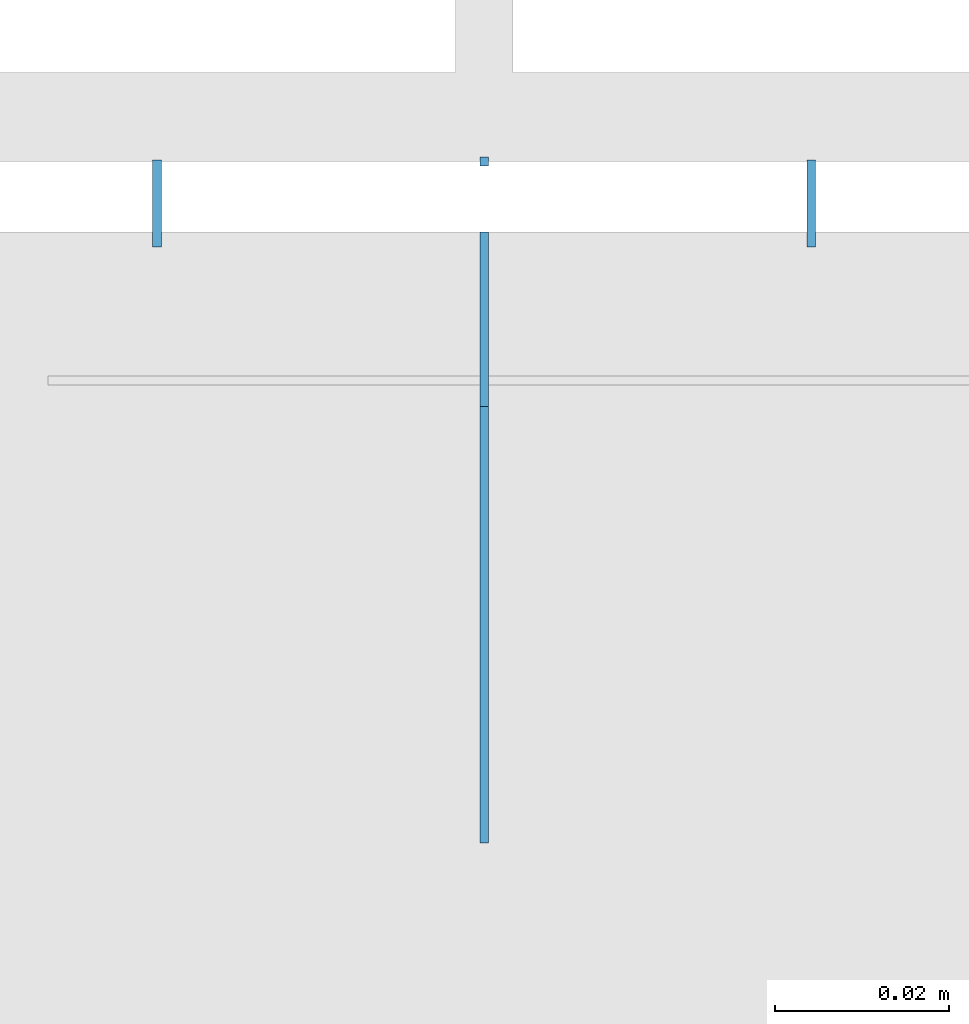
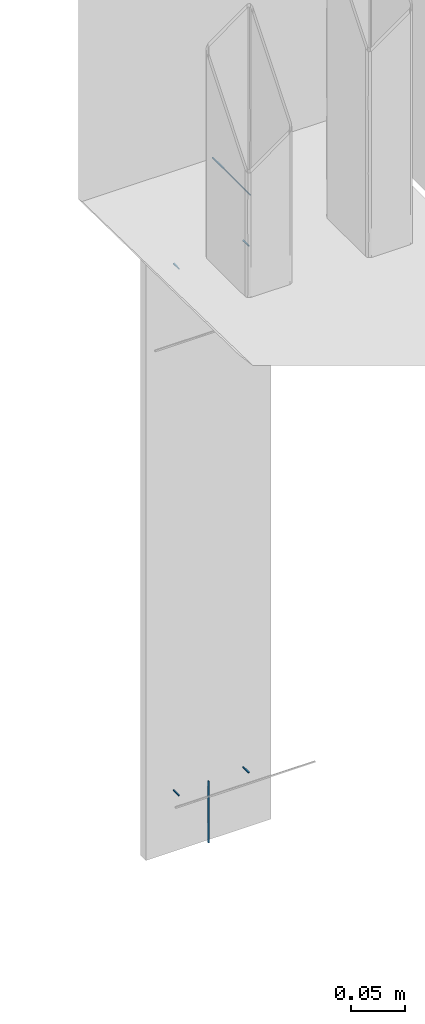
# One storey, part 99 of 186: 7 beams.
"""IFC4X3_ADD2 building model written with IfcOpenShell, lengths in millimetres."""

import ifcopenshell
import ifcopenshell.guid

model = None  # the IFC model being written
_history = None  # IfcOwnerHistory: only IFC2X3 demands one
_inside = {}  # id of a spatial element -> (the spatial element, [elements in it])
_under = {}  # id of a project, library or spatial element -> (it, [spatial elements below it])
_declared = {}  # id of a project -> (the project, [libraries it declares])
_typed = {}  # id of a type object -> (the type object, [elements of that type])
_made_of = {}  # id of a material, layer set ... -> (it, [elements and type objects made of it])


def new_model(schema):
    """Start an empty IFC model of exactly this schema.

    Asked for "IFC4X3", IfcOpenShell would pick the latest addendum, in which some entities
    have other attributes; the version numbers below select the first issue.
    IFC2X3 requires an IfcOwnerHistory on every rooted entity: one is made here for all.
    """
    global model, _history
    if schema == "IFC4X3":
        model = ifcopenshell.file(schema_version=(4, 3, 0, 0))
    else:
        model = ifcopenshell.file(schema=schema)
    _inside.clear()
    _under.clear()
    _declared.clear()
    _typed.clear()
    _made_of.clear()
    _history = None
    if model.schema == "IFC2X3":
        org = make("IfcOrganization", Name="unknown")
        user = make(
            "IfcPersonAndOrganization",
            ThePerson=make("IfcPerson", FamilyName="unknown"),
            TheOrganization=org,
        )
        app = make(
            "IfcApplication",
            ApplicationDeveloper=org,
            Version="unknown",
            ApplicationFullName="unknown",
            ApplicationIdentifier="unknown",
        )
        _history = make(
            "IfcOwnerHistory",
            OwningUser=user,
            OwningApplication=app,
            ChangeAction="ADDED",
            CreationDate=0,
        )
    return model


def make(cls, **values):
    """One entity of the class cls with the attributes given. An attribute that is None is left unset."""
    return model.create_entity(
        cls, **{name: value for name, value in values.items() if value is not None}
    )


def rooted(cls, **values):
    """An entity with a GlobalId (a new one), such as an element, a storey or a relation."""
    return make(cls, GlobalId=ifcopenshell.guid.new(), OwnerHistory=_history, **values)


def si_unit(unit_type, name, prefix=None):
    """IfcSIUnit, for example si_unit("LENGTHUNIT", "METRE", prefix="MILLI")."""
    return make("IfcSIUnit", UnitType=unit_type, Prefix=prefix, Name=name)


def assignment(units):
    """IfcUnitAssignment: the units of a project."""
    return None if units is None else make("IfcUnitAssignment", Units=units)


def point(xyz):
    """IfcCartesianPoint."""
    return None if xyz is None else make("IfcCartesianPoint", Coordinates=xyz)


def direction(xyz):
    """IfcDirection."""
    return None if xyz is None else make("IfcDirection", DirectionRatios=xyz)


def frame(location, z_axis=None, x_axis=None):
    """IfcAxis2Placement3D, a coordinate frame: its origin and axes. An axis left out is left unset."""
    return make(
        "IfcAxis2Placement3D",
        Location=point(location),
        Axis=direction(z_axis),
        RefDirection=direction(x_axis),
    )


def frame_2d(location, x_axis=None):
    """IfcAxis2Placement2D, a coordinate frame in the plane: its origin and x axis."""
    return make(
        "IfcAxis2Placement2D", Location=point(location), RefDirection=direction(x_axis)
    )


def origin_with_axes():
    """The frame at (0, 0, 0) with the z axis (0, 0, 1) and the x axis (1, 0, 0) written out."""
    return frame((0.0, 0.0, 0.0), z_axis=(0.0, 0.0, 1.0), x_axis=(1.0, 0.0, 0.0))


def place(relative_to, where):
    """IfcLocalPlacement: puts the frame where relative to a parent placement (None: the world)."""
    return make(
        "IfcLocalPlacement", PlacementRelTo=relative_to, RelativePlacement=where
    )


def context(
    kind, dimensions, precision=None, world=None, true_north=None, identifier=None
):
    """IfcGeometricRepresentationContext, for example the 3D "Model" context."""
    return make(
        "IfcGeometricRepresentationContext",
        ContextIdentifier=identifier,
        ContextType=kind,
        CoordinateSpaceDimension=dimensions,
        Precision=precision,
        WorldCoordinateSystem=world,
        TrueNorth=true_north,
    )


def subcontext(parent, identifier, kind, view, scale=None):
    """IfcGeometricRepresentationSubContext, for example "Body" below "Model"."""
    return make(
        "IfcGeometricRepresentationSubContext",
        ContextIdentifier=identifier,
        ContextType=kind,
        ParentContext=parent,
        TargetScale=scale,
        TargetView=view,
    )


def project(units=None, contexts=None):
    """IfcProject with its units and contexts."""
    return rooted(
        "IfcProject",
        Name="project",
        RepresentationContexts=contexts,
        UnitsInContext=assignment(units),
    )


def spatial(cls, under=None, at=None, **own):
    """A site, building, storey or space (cls), placed at a placement, below another one or the project."""
    s = rooted(cls, ObjectPlacement=at, **own)
    if under is not None:
        _under.setdefault(under.id(), (under, []))[1].append(s)
    return s


def profile(cls, at=None, kind="AREA", **sizes):
    """A parametric profile (cls). Its sizes go by their IFC names, for example OverallWidth=200.0."""
    return make(cls, ProfileType=kind, Position=at, **sizes)


def rectangle(**sizes):
    """IfcRectangleProfileDef."""
    return profile("IfcRectangleProfileDef", **sizes)


def extrude(swept, where, along, depth):
    """IfcExtrudedAreaSolid: the profile swept, set in the frame where, extruded along a direction by depth."""
    return make(
        "IfcExtrudedAreaSolid",
        SweptArea=swept,
        Position=where,
        ExtrudedDirection=direction(along),
        Depth=depth,
    )


def shape(context_of_items, identifier, shape_type, items):
    """IfcShapeRepresentation: the items that make up one representation, for example the "Body"."""
    return make(
        "IfcShapeRepresentation",
        ContextOfItems=context_of_items,
        RepresentationIdentifier=identifier,
        RepresentationType=shape_type,
        Items=items,
    )


def material(Name=None, Category=None):
    """IfcMaterial."""
    return make("IfcMaterial", Name=Name, Category=Category)


def made_of(thing, what):
    """Note that an element or type object is made of a material, layer set ...; save() writes the relation."""
    if what is not None:
        _made_of.setdefault(what.id(), (what, []))[1].append(thing)
    return thing


def element(
    cls,
    number,
    at=None,
    inside=None,
    cuts=None,
    type_object=None,
    material=None,
    context=None,
    identifier="Body",
    shape_type=None,
    held_by="IfcProductDefinitionShape",
    body=None,
    shapes=None,
    **own,
):
    """One element of the class cls, such as IfcWall. Its Tag is "e" and its number.

    at: its placement. inside: the storey or other place that contains it. cuts: it is an
    opening in that element (IfcRelVoidsElement). A single representation is given by context,
    identifier, shape_type and body (its items); several are given by shapes. held_by: the class
    of the entity that holds the representations. save() writes the other relations.
    """
    e = rooted(cls, Tag="e%d" % number, ObjectPlacement=at, **own)
    if body is not None:
        shapes = [shape(context, identifier, shape_type, body)]
    if shapes is not None:
        e.Representation = make(held_by, Representations=shapes)
    if inside is not None:
        _inside.setdefault(inside.id(), (inside, []))[1].append(e)
    if cuts is not None:
        rooted(
            "IfcRelVoidsElement", RelatingBuildingElement=cuts, RelatedOpeningElement=e
        )
    if type_object is not None:
        _typed.setdefault(type_object.id(), (type_object, []))[1].append(e)
    return made_of(e, material)


def aggregate(whole, parts):
    """IfcRelAggregates: a whole, such as a stair, and the parts it consists of."""
    return rooted("IfcRelAggregates", RelatingObject=whole, RelatedObjects=parts)


def save(model, path):
    """Write the relations noted so far, then the file.

    IfcRelAggregates (storeys below a building ...), IfcRelContainedInSpatialStructure (elements
    in a storey), IfcRelDefinesByType, IfcRelAssociatesMaterial and IfcRelDeclares: one each for
    every whole, place, type object, material and project.
    """
    for whole, parts in _under.values():
        aggregate(whole, parts)
    for where, things in _inside.values():
        rooted(
            "IfcRelContainedInSpatialStructure",
            RelatedElements=things,
            RelatingStructure=where,
        )
    for kind, things in _typed.values():
        rooted("IfcRelDefinesByType", RelatedObjects=things, RelatingType=kind)
    for what, things in _made_of.values():
        rooted("IfcRelAssociatesMaterial", RelatedObjects=things, RelatingMaterial=what)
    for by, libraries in _declared.values():
        rooted("IfcRelDeclares", RelatingContext=by, RelatedDefinitions=libraries)
    model.write(path)


model = new_model("IFC4X3_ADD2")

# Units and contexts
model_context = context("Model", 3, precision=1e-05, world=origin_with_axes(), true_north=direction((0.0, 1.0)))
body_context = subcontext(model_context, "Body", "Model", "MODEL_VIEW")
ifc_project = project(units=[si_unit("LENGTHUNIT", "METRE", prefix="MILLI"), si_unit("AREAUNIT", "SQUARE_METRE"), si_unit("VOLUMEUNIT", "CUBIC_METRE"), si_unit("PLANEANGLEUNIT", "RADIAN"), si_unit("TIMEUNIT", "SECOND"), si_unit("MASSUNIT", "GRAM")], contexts=[model_context])

# Site, building, storey
site_placement = place(None, origin_with_axes())
site = spatial("IfcSite", under=ifc_project, at=site_placement, Name="Site", CompositionType="ELEMENT")
building_placement = place(site_placement, origin_with_axes())
building = spatial("IfcBuilding", under=site, at=building_placement, Name="IFC Building Story")
storey_placement = place(building_placement, frame((0.0, 0.0, 4370.0), z_axis=(0.0, 0.0, 1.0), x_axis=(1.0, 0.0, 0.0)))
storey = spatial("IfcBuildingStorey", under=building, at=storey_placement, Name="ETAGE 10 (1)", Elevation=4370.0)

# Beams
ifc_material_1 = material(Name="STEEL/Accessory_invisible")
for number, where, z_axis, x_axis, name in (
    (1, (16593.1888269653, 17983.2997253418, 3729.44999999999), (1.0, 0.0, 0.0), (0.0, 0.0, 1.0), "MP21"),
    (2, (16518.1888269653, 17983.2997253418, 3729.44999999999), (1.0, 0.0, 0.0), (0.0, 0.0, 1.0), "MP21"),
):
    element("IfcBeam", number, at=place(storey_placement, frame(where, z_axis=z_axis, x_axis=x_axis)), inside=storey, material=ifc_material_1, Name=name, ObjectType="1*1 9", context=body_context, shape_type="SweptSolid", body=[
        extrude(rectangle(XDim=0.9999999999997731, YDim=10.0, at=frame_2d((0.0, 5.95523630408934e-12), x_axis=(1.0, 0.0))), origin_with_axes(), (0.0, 0.0, 1.0), 1.0),
    ])
ifc_material_2 = material(Name="STEEL/Accessory_invisible 261")
beam_1_placement = place(storey_placement, frame((16555.689, 17969.9997253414, 3841.80136869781), z_axis=(1.0, 0.0, 0.0), x_axis=(0.0, 0.0, 1.0)))
element("IfcBeam", 3, at=beam_1_placement, inside=storey, material=ifc_material_2, Name="PR10", ObjectType="1*1 13", context=body_context, shape_type="SweptSolid", body=[
    extrude(rectangle(XDim=0.9999999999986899, YDim=20.0, at=frame_2d((0.0, 5.95523630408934e-12), x_axis=(1.0, 0.0))), origin_with_axes(), (0.0, 0.0, 1.0), 1.0),
])
beam_2_placement = place(storey_placement, frame((16556.6888269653, 17988.0997253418, 3091.94999999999), z_axis=(-1.0, 0.0, 0.0), x_axis=(0.0, 0.0, 1.0)))
element("IfcBeam", 4, at=beam_2_placement, inside=storey, material=ifc_material_1, Name="ZW1", ObjectType="1*1 10", context=body_context, shape_type="SweptSolid", body=[
    extrude(rectangle(XDim=70.0000000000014, YDim=1.0, at=frame_2d((0.0, 5.95523630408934e-12), x_axis=(1.0, 0.0))), origin_with_axes(), (0.0, 0.0, 1.0), 1.0),
])
for number, where, z_axis, x_axis, name in (
    (5, (16593.1888269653, 17983.2997253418, 3129.44999999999), (1.0, 0.0, 0.0), (0.0, 0.0, 1.0), "MP21"),
    (6, (16518.1888269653, 17983.2997253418, 3129.44999999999), (1.0, 0.0, 0.0), (0.0, 0.0, 1.0), "MP21"),
):
    element("IfcBeam", number, at=place(storey_placement, frame(where, z_axis=z_axis, x_axis=x_axis)), inside=storey, material=ifc_material_1, Name=name, ObjectType="1*1 9", context=body_context, shape_type="SweptSolid", body=[
        extrude(rectangle(XDim=0.9999999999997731, YDim=10.0, at=frame_2d((0.0, 5.95523630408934e-12), x_axis=(1.0, 0.0))), origin_with_axes(), (0.0, 0.0, 1.0), 1.0),
    ])
beam_3_placement = place(storey_placement, frame((16555.689, 17934.9997253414, 3841.801368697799), z_axis=(1.0, 0.0, 0.0), x_axis=(0.0, 0.0, 1.0)))
element("IfcBeam", 7, at=beam_3_placement, inside=storey, material=ifc_material_1, Name="ZW1", ObjectType="1*1 14", context=body_context, shape_type="SweptSolid", body=[
    extrude(rectangle(XDim=0.9999999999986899, YDim=50.0, at=frame_2d((0.0, 5.95523630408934e-12), x_axis=(1.0, 0.0))), origin_with_axes(), (0.0, 0.0, 1.0), 1.0),
])

save(model, "model.ifc")
